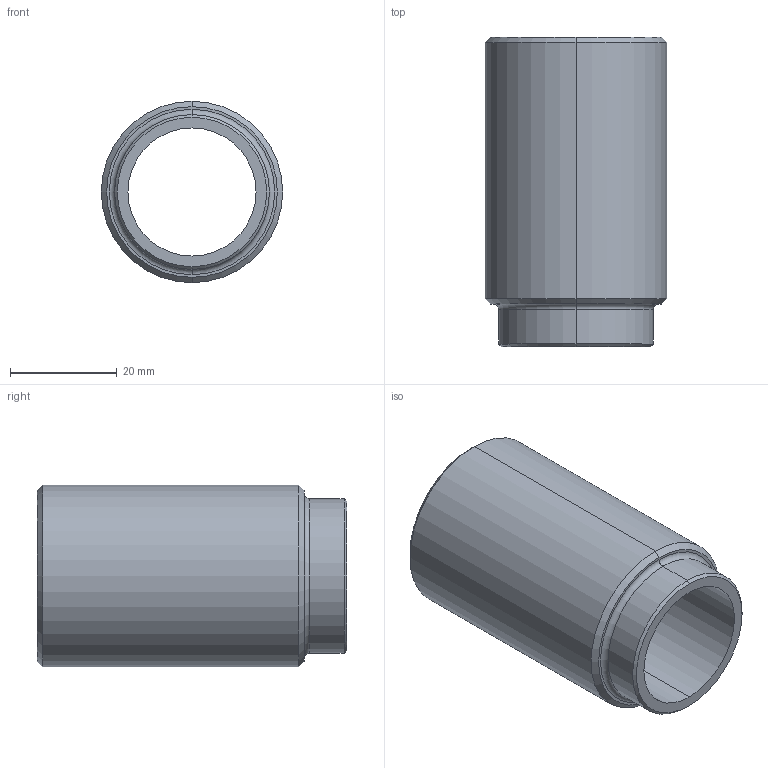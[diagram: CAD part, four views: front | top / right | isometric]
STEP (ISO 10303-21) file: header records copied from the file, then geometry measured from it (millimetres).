
FILE_DESCRIPTION (( 'STEP AP214' ), '1' );
FILE_NAME ('AGZ070.04_V1压装手柄.STEP', '2021-12-15T05:12:09', ( '微软中国' ), ( 'Microsoft' ), 'SwSTEP 2.0', 'SolidWorks 2018', '' );
FILE_SCHEMA (( 'AUTOMOTIVE_DESIGN' ));
Length unit declared in the file: millimetre
Products named in the file (1): AGZ070.04_V1揤蚾忒梟
Bounding box: 34 x 58 x 34 mm (x, y, z)
Volume: 24306.7 mm3; surface area: 11117.4 mm2
Topology: 1 solids, 1 shells, 19 faces, 38 edges, 22 vertices
Faces by surface type: cone 8, cylinder 6, plane 3, torus 2
Entity records: 534 total; most frequent: DIRECTION 102, CARTESIAN_POINT 80, ORIENTED_EDGE 76, AXIS2_PLACEMENT_3D 44, EDGE_CURVE 38, CIRCLE 24, VERTEX_POINT 22, EDGE_LOOP 22
